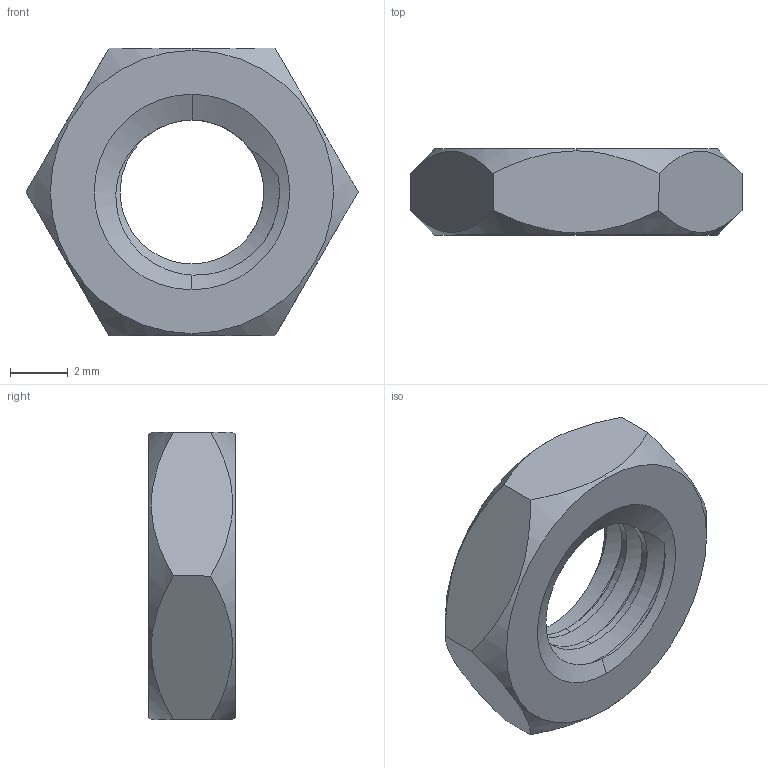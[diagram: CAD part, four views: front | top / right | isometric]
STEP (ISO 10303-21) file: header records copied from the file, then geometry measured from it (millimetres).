
FILE_DESCRIPTION (( 'STEP AP203' ), '1' );
FILE_NAME ('TANM-304-M6.STEP', '2026-08-25T09:16:40', ( '' ), ( '' ), 'SwSTEP 2.0', 'SolidWorks 2020', '' );
FILE_SCHEMA (( 'CONFIG_CONTROL_DESIGN' ));
Length unit declared in the file: millimetre
Products named in the file (1): TANM-304-M6
Bounding box: 11.55 x 3 x 10 mm (x, y, z)
Volume: 179.8 mm3; surface area: 285.7 mm2
Topology: 1 solids, 1 shells, 25 faces, 68 edges, 45 vertices
Faces by surface type: cone 8, plane 8, cylinder 6, bspline 3
Entity records: 1839 total; most frequent: CARTESIAN_POINT 1213, ORIENTED_EDGE 136, DIRECTION 87, EDGE_CURVE 68, VERTEX_POINT 45, AXIS2_PLACEMENT_3D 34, EDGE_LOOP 27, ADVANCED_FACE 25
